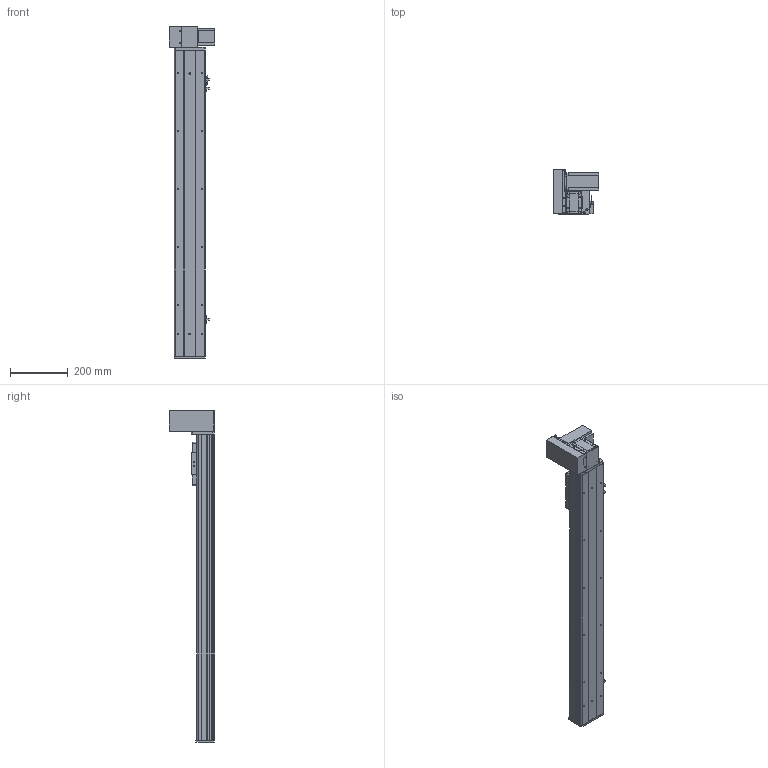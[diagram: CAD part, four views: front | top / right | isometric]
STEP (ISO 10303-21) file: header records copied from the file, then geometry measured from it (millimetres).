
FILE_DESCRIPTION (( 'STEP AP203' ), '1' );
FILE_NAME ('Y10CB-D90-S800-UL-P400W.STEP', '2020-02-16T07:15:06', ( '微软用户' ), ( '微软中国' ), 'SwSTEP 2.0', 'SolidWorks 2017', '' );
FILE_SCHEMA (( 'CONFIG_CONTROL_DESIGN' ));
Length unit declared in the file: millimetre
Products named in the file (18): Y135C-陔俋离換覜結え-; Y100-135俋离換覜ん--; san松下电机400不带刹车----; Y10B-耜蚾蟀諉啣----; 0B-源倛裔啣; 00B-俋欶BM--; 0B-埴倛裔啣; Y10B--々湍喘謫眊--666; 10CB-詩湍-; Y10CB-D90-S800-UL-P400W; Y10CB- 掛极耜裔啣-毀---; 0CB-雄赽釱---; Y10C---詩湍揤啣; 0Cb-俋欶---; 10CB9-掛极; Y10B-々湍喘謫眊楊擘啣--; 10CB-耜裔; 0B-萇儂楊擘啣
Assembly tree (21 placements, depth 2):
  Y10CB-D90-S800-UL-P400W
    0CB-雄赽釱---
    0Cb-俋欶---
    Y10B-々湍喘謫眊楊擘啣--
    0B-萇儂楊擘啣
    san松下电机400不带刹车----
    0B-源倛裔啣
    0B-埴倛裔啣
    10CB-詩湍-
    Y10CB- 掛极耜裔啣-毀---  x2
    Y10C---詩湍揤啣  x2
    10CB9-掛极
    10CB-耜裔
    Y135C-陔俋离換覜結え-
    Y100-135俋离換覜ん--  x3
    Y10B-耜蚾蟀諉啣----
    00B-俋欶BM--
    Y10B--々湍喘謫眊--666
Bounding box: 157 x 155.5 x 1146 mm (x, y, z)
Volume: 2786876.3 mm3; surface area: 1235494 mm2
Topology: 21 solids, 21 shells, 978 faces, 2603 edges, 1706 vertices
Faces by surface type: cylinder 479, plane 475, cone 24
Entity records: 30412 total; most frequent: CARTESIAN_POINT 5321, DIRECTION 4930, ORIENTED_EDGE 4676, EDGE_CURVE 2338, AXIS2_PLACEMENT_3D 1765, VERTEX_POINT 1532, VECTOR 1400, LINE 1400
